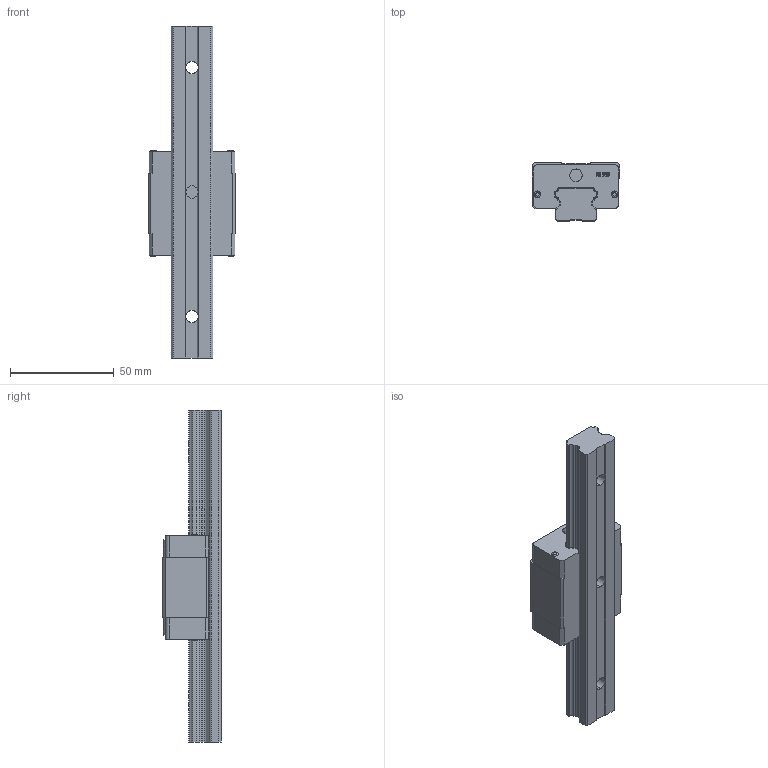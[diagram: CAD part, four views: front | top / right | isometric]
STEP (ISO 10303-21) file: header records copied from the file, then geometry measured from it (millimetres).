
FILE_DESCRIPTION(/* description */ (''),/* implementation_level */ '2;1');
FILE_NAME(/* name */ 'EGH20SA.stp',/* time_stamp */ '2021-05-19T13:42:53+08:00',/* author */ (''),/* organization */ (''),/* preprocessor_version */ 'ST-DEVELOPER v15',/* originating_system */ 'SIEMENS PLM Software NX 8.5',/* authorisation */ '');
FILE_SCHEMA (('CONFIG_CONTROL_DESIGN'));
Length unit declared in the file: millimetre
Products named in the file (1): _model4
Bounding box: 42 x 28 x 160 mm (x, y, z)
Volume: 78000.1 mm3; surface area: 22681.7 mm2
Topology: 2 solids, 2 shells, 286 faces, 844 edges, 577 vertices
Faces by surface type: plane 153, cylinder 83, extrusion 38, torus 8, cone 4
Entity records: 10178 total; most frequent: CARTESIAN_POINT 2443, ORIENTED_EDGE 1688, DIRECTION 1472, EDGE_CURVE 844, VERTEX_POINT 577, VECTOR 520, LINE 482, AXIS2_PLACEMENT_3D 476
